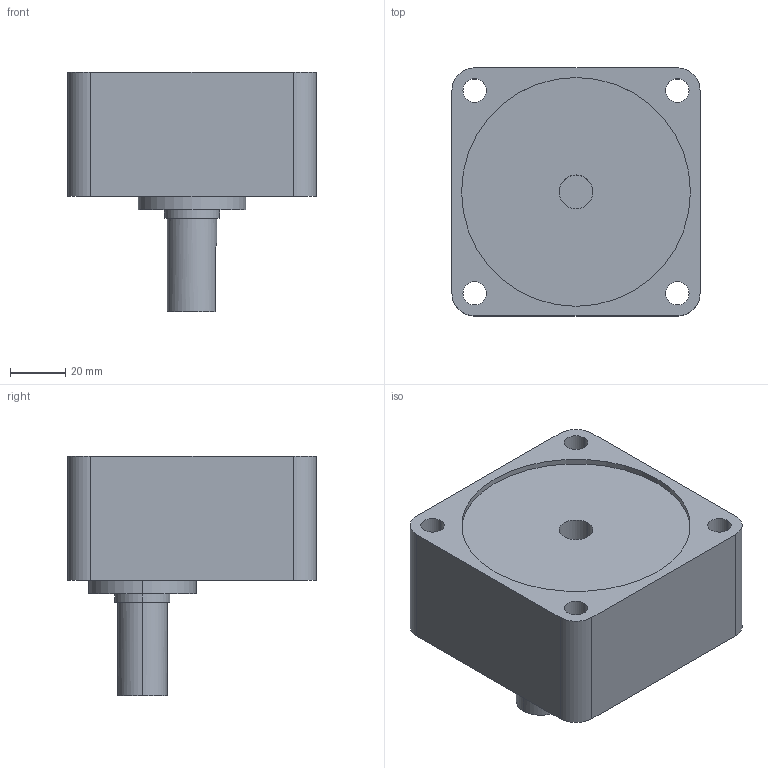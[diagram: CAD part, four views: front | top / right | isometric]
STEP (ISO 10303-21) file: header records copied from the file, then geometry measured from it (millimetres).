
FILE_DESCRIPTION (( 'STEP AP203' ), '1' );
FILE_NAME ('A1893A.step', '2024-04-24T09:21:25', ( '' ), ( '' ), 'SwSTEP 2.0', 'SolidWorks 2023', '' );
FILE_SCHEMA (( 'CONFIG_CONTROL_DESIGN' ));
Length unit declared in the file: millimetre
Products named in the file (1): A1893A
Bounding box: 90 x 90 x 87 mm (x, y, z)
Volume: 351011.9 mm3; surface area: 40748.1 mm2
Topology: 1 solids, 1 shells, 49 faces, 116 edges, 75 vertices
Faces by surface type: cylinder 29, plane 16, cone 4
Entity records: 1542 total; most frequent: DIRECTION 271, CARTESIAN_POINT 269, ORIENTED_EDGE 228, EDGE_CURVE 114, AXIS2_PLACEMENT_3D 109, VERTEX_POINT 75, EDGE_LOOP 65, CIRCLE 59
